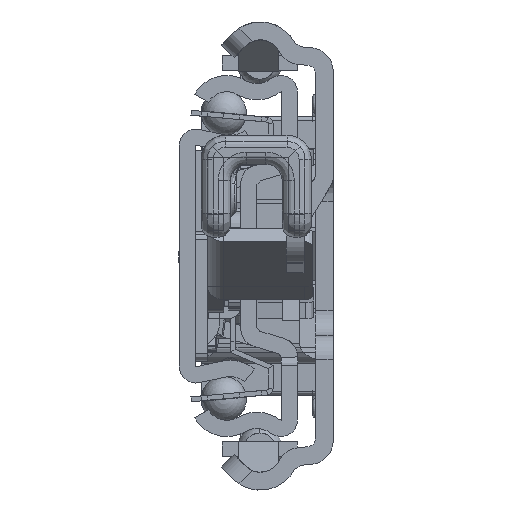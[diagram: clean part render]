
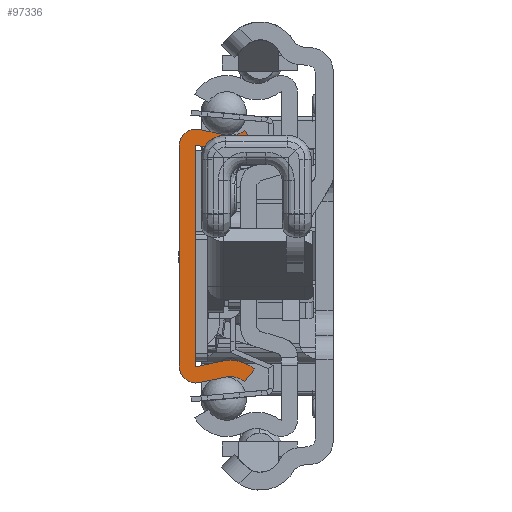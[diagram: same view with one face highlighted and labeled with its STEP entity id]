
A CAD part, left-side view. The second image highlights one B-rep face of the part: STEP entity #97336.
In plain terms, the highlighted planar face has unit normal (-1, 0, 0).
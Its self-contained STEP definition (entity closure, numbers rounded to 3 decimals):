
#90496=CARTESIAN_POINT('',(0.,-6.29,-17.65));
#90497=DIRECTION('',(-1.,0.,0.));
#90498=DIRECTION('',(0.,-0.629,0.778));
#90499=AXIS2_PLACEMENT_3D('',#90496,#90497,#90498);
#90501=DIRECTION('',(0.,0.977,-0.213));
#90502=VECTOR('',#90501,3.218);
#90503=CARTESIAN_POINT('',(0.,-5.692,-14.915));
#90504=LINE('',#90503,#90502);
#90505=CARTESIAN_POINT('',(0.,-2.1,-13.55));
#90506=DIRECTION('',(1.,0.,0.));
#90507=DIRECTION('',(0.,-0.213,-0.977));
#90508=AXIS2_PLACEMENT_3D('',#90505,#90506,#90507);
#90510=CARTESIAN_POINT('',(0.,-2.1,13.55));
#90511=DIRECTION('',(1.,0.,0.));
#90512=DIRECTION('',(0.,1.,0.));
#90513=AXIS2_PLACEMENT_3D('',#90510,#90511,#90512);
#90515=DIRECTION('',(0.,-0.977,-0.213));
#90516=VECTOR('',#90515,3.218);
#90517=CARTESIAN_POINT('',(0.,-2.548,15.602));
#90518=LINE('',#90517,#90516);
#90519=CARTESIAN_POINT('',(0.,-6.29,17.65));
#90520=DIRECTION('',(-1.,0.,0.));
#90521=DIRECTION('',(0.,0.213,-0.977));
#90522=AXIS2_PLACEMENT_3D('',#90519,#90520,#90521);
#90524=DIRECTION('',(0.,-0.629,-0.778));
#90525=VECTOR('',#90524,2.);
#90526=CARTESIAN_POINT('',(0.,-8.05,15.472));
#90527=LINE('',#90526,#90525);
#90528=CARTESIAN_POINT('',(0.,-6.29,17.65));
#90529=DIRECTION('',(1.,0.,0.));
#90530=DIRECTION('',(0.,-0.629,-0.778));
#90531=AXIS2_PLACEMENT_3D('',#90528,#90529,#90530);
#90533=DIRECTION('',(0.,0.977,0.213));
#90534=VECTOR('',#90533,3.218);
#90535=CARTESIAN_POINT('',(0.,-5.265,12.961));
#90536=LINE('',#90535,#90534);
#90537=CARTESIAN_POINT('',(0.,-2.1,13.55));
#90538=DIRECTION('',(-1.,0.,0.));
#90539=DIRECTION('',(0.,-0.213,0.977));
#90540=AXIS2_PLACEMENT_3D('',#90537,#90538,#90539);
#90542=CARTESIAN_POINT('',(0.,-2.1,-13.55));
#90543=DIRECTION('',(-1.,0.,0.));
#90544=DIRECTION('',(0.,1.,0.));
#90545=AXIS2_PLACEMENT_3D('',#90542,#90543,#90544);
#90547=DIRECTION('',(0.,-0.977,0.213));
#90548=VECTOR('',#90547,3.218);
#90549=CARTESIAN_POINT('',(0.,-2.121,-13.648));
#90550=LINE('',#90549,#90548);
#90551=CARTESIAN_POINT('',(0.,-6.29,-17.65));
#90552=DIRECTION('',(1.,0.,0.));
#90553=DIRECTION('',(0.,0.213,0.977));
#90554=AXIS2_PLACEMENT_3D('',#90551,#90552,#90553);
#90556=DIRECTION('',(0.,0.629,-0.778));
#90557=VECTOR('',#90556,2.);
#90558=CARTESIAN_POINT('',(0.,-9.307,-13.917));
#90559=LINE('',#90558,#90557);
#90801=DIRECTION('',(0.,0.,1.));
#90802=VECTOR('',#90801,27.1);
#90803=CARTESIAN_POINT('',(0.,-2.,-13.55));
#90804=LINE('',#90803,#90802);
#92109=DIRECTION('',(0.,0.,-1.));
#92110=VECTOR('',#92109,27.1);
#92111=CARTESIAN_POINT('',(0.,0.,13.55));
#92112=LINE('',#92111,#92110);
#95986=CARTESIAN_POINT('',(0.,-8.05,-15.472));
#95987=CARTESIAN_POINT('',(0.,-5.692,-14.915));
#95988=VERTEX_POINT('',#95986);
#95989=VERTEX_POINT('',#95987);
#95990=CARTESIAN_POINT('',(0.,-2.548,-15.602));
#95991=VERTEX_POINT('',#95990);
#95992=CARTESIAN_POINT('',(0.,0.,-13.55));
#95993=VERTEX_POINT('',#95992);
#95994=CARTESIAN_POINT('',(0.,0.,13.55));
#95995=VERTEX_POINT('',#95994);
#95996=CARTESIAN_POINT('',(0.,-2.548,15.602));
#95997=VERTEX_POINT('',#95996);
#95998=CARTESIAN_POINT('',(0.,-5.692,14.915));
#95999=VERTEX_POINT('',#95998);
#96000=CARTESIAN_POINT('',(0.,-8.05,15.472));
#96001=VERTEX_POINT('',#96000);
#96002=CARTESIAN_POINT('',(0.,-9.307,13.917));
#96003=VERTEX_POINT('',#96002);
#96004=CARTESIAN_POINT('',(0.,-5.265,12.961));
#96005=VERTEX_POINT('',#96004);
#96006=CARTESIAN_POINT('',(0.,-2.121,13.648));
#96007=VERTEX_POINT('',#96006);
#96008=CARTESIAN_POINT('',(0.,-2.,13.55));
#96009=VERTEX_POINT('',#96008);
#96010=CARTESIAN_POINT('',(0.,-2.,-13.55));
#96011=VERTEX_POINT('',#96010);
#96012=CARTESIAN_POINT('',(0.,-2.121,-13.648));
#96013=VERTEX_POINT('',#96012);
#96014=CARTESIAN_POINT('',(0.,-5.265,-12.961));
#96015=VERTEX_POINT('',#96014);
#96016=CARTESIAN_POINT('',(0.,-9.307,-13.917));
#96017=VERTEX_POINT('',#96016);
#97297=CARTESIAN_POINT('',(0.,0.,0.));
#97298=DIRECTION('',(1.,0.,0.));
#97299=DIRECTION('',(0.,-1.,0.));
#97300=AXIS2_PLACEMENT_3D('',#97297,#97298,#97299);
#97301=PLANE('',#97300);
#97303=ORIENTED_EDGE('',*,*,#97302,.T.);
#97305=ORIENTED_EDGE('',*,*,#97304,.T.);
#97307=ORIENTED_EDGE('',*,*,#97306,.T.);
#97309=ORIENTED_EDGE('',*,*,#97308,.F.);
#97311=ORIENTED_EDGE('',*,*,#97310,.T.);
#97313=ORIENTED_EDGE('',*,*,#97312,.T.);
#97315=ORIENTED_EDGE('',*,*,#97314,.T.);
#97317=ORIENTED_EDGE('',*,*,#97316,.T.);
#97319=ORIENTED_EDGE('',*,*,#97318,.T.);
#97321=ORIENTED_EDGE('',*,*,#97320,.T.);
#97323=ORIENTED_EDGE('',*,*,#97322,.T.);
#97325=ORIENTED_EDGE('',*,*,#97324,.F.);
#97327=ORIENTED_EDGE('',*,*,#97326,.T.);
#97329=ORIENTED_EDGE('',*,*,#97328,.T.);
#97331=ORIENTED_EDGE('',*,*,#97330,.T.);
#97333=ORIENTED_EDGE('',*,*,#97332,.T.);
#97334=EDGE_LOOP('',(#97303,#97305,#97307,#97309,#97311,#97313,#97315,#97317,
#97319,#97321,#97323,#97325,#97327,#97329,#97331,#97333));
#97335=FACE_OUTER_BOUND('',#97334,.F.);
#90500=CIRCLE('',#90499,2.8);
#90509=CIRCLE('',#90508,2.1);
#90514=CIRCLE('',#90513,2.1);
#90523=CIRCLE('',#90522,2.8);
#90532=CIRCLE('',#90531,4.8);
#90541=CIRCLE('',#90540,0.1);
#90546=CIRCLE('',#90545,0.1);
#90555=CIRCLE('',#90554,4.8);
#97302=EDGE_CURVE('',#95988,#95989,#90500,.T.);
#97304=EDGE_CURVE('',#95989,#95991,#90504,.T.);
#97306=EDGE_CURVE('',#95991,#95993,#90509,.T.);
#97308=EDGE_CURVE('',#95995,#95993,#92112,.T.);
#97310=EDGE_CURVE('',#95995,#95997,#90514,.T.);
#97312=EDGE_CURVE('',#95997,#95999,#90518,.T.);
#97314=EDGE_CURVE('',#95999,#96001,#90523,.T.);
#97316=EDGE_CURVE('',#96001,#96003,#90527,.T.);
#97318=EDGE_CURVE('',#96003,#96005,#90532,.T.);
#97320=EDGE_CURVE('',#96005,#96007,#90536,.T.);
#97322=EDGE_CURVE('',#96007,#96009,#90541,.T.);
#97324=EDGE_CURVE('',#96011,#96009,#90804,.T.);
#97326=EDGE_CURVE('',#96011,#96013,#90546,.T.);
#97328=EDGE_CURVE('',#96013,#96015,#90550,.T.);
#97330=EDGE_CURVE('',#96015,#96017,#90555,.T.);
#97332=EDGE_CURVE('',#96017,#95988,#90559,.T.);
#97336=ADVANCED_FACE('',(#97335),#97301,.F.);
